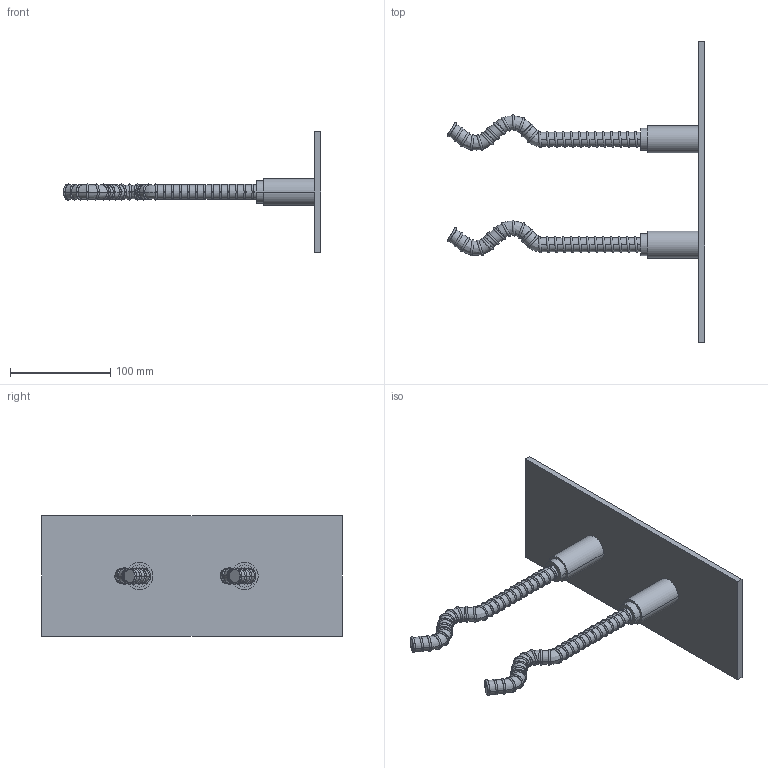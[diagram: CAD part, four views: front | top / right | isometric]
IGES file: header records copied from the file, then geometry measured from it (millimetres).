
Start section: 3D InterOp IGES (Version 26 1 0), Spatial Corp. Copyright (c) 1999-2007.
Global section: file name: PAM6T.igs; native system: Spatial Corp.; preprocessor: 3D InterOp GENERIC/IGES 3.0; author: Noname; organization: Noname; date: 20181022.130459; units: millimetre
Bounding box: 257.26 x 300 x 120 mm (x, y, z)
Surface area: 117385.8 mm2 (no closed solid volume)
Topology: 0 solids, 0 shells, 380 faces, 1936 edges, 1936 vertices
Faces by surface type: extrusion 224, bspline 116, revolution 40
